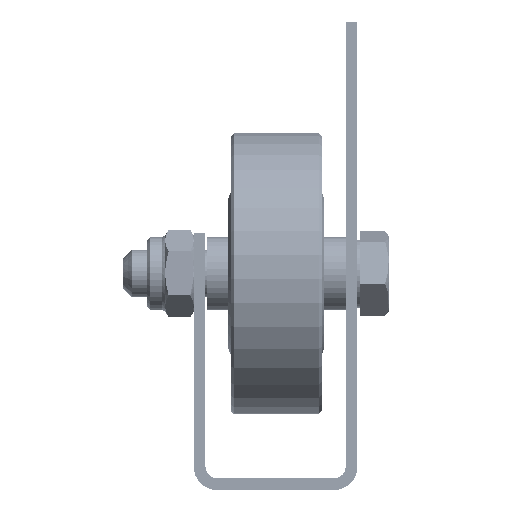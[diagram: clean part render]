
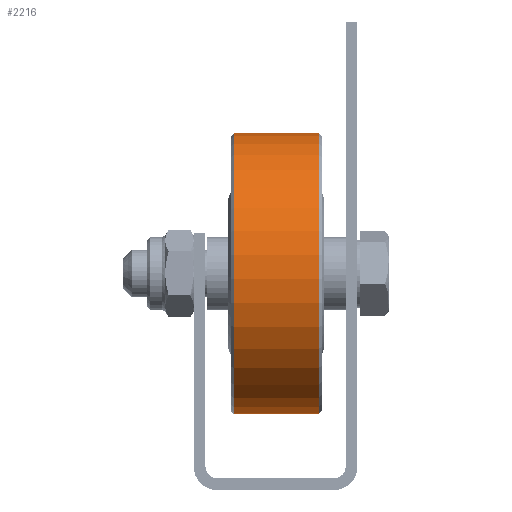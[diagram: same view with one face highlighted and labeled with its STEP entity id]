
A CAD part, front view. The second image highlights one B-rep face of the part: STEP entity #2216.
In plain terms, the highlighted cylindrical face has radius 24 mm (diameter 48 mm), a full revolution.
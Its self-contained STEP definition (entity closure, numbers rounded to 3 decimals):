
#2216 = ADVANCED_FACE( '', ( #4601, #4602 ), #4603, .T. );
#4601 = FACE_OUTER_BOUND( '', #7691, .T. );
#4602 = FACE_OUTER_BOUND( '', #7692, .T. );
#4603 = CYLINDRICAL_SURFACE( '', #7693, 24. );
#7691 = EDGE_LOOP( '', ( #11304 ) );
#7692 = EDGE_LOOP( '', ( #11305 ) );
#7693 = AXIS2_PLACEMENT_3D( '', #11306, #11307, #11308 );
#11304 = ORIENTED_EDGE( '', *, *, #14974, .T. );
#11305 = ORIENTED_EDGE( '', *, *, #14052, .T. );
#11306 = CARTESIAN_POINT( '', ( 0., -7.75, 0. ) );
#11307 = DIRECTION( '', ( 0., -1., 0. ) );
#11308 = DIRECTION( '', ( 0., 0., 1. ) );
#14052 = EDGE_CURVE( '', #15728, #15728, #15729, .T. );
#14974 = EDGE_CURVE( '', #17337, #17337, #17338, .F. );
#15728 = VERTEX_POINT( '', #18411 );
#15729 = CIRCLE( '', #18412, 24. );
#17337 = VERTEX_POINT( '', #20290 );
#17338 = CIRCLE( '', #20291, 24. );
#18411 = CARTESIAN_POINT( '', ( 0., -7.25, 24. ) );
#18412 = AXIS2_PLACEMENT_3D( '', #21533, #21534, #21535 );
#20290 = CARTESIAN_POINT( '', ( 0., 7.25, 24. ) );
#20291 = AXIS2_PLACEMENT_3D( '', #23462, #23463, #23464 );
#21533 = CARTESIAN_POINT( '', ( 0., -7.25, 0. ) );
#21534 = DIRECTION( '', ( 0., 1., 0. ) );
#21535 = DIRECTION( '', ( 0., 0., 1. ) );
#23462 = CARTESIAN_POINT( '', ( 0., 7.25, 0. ) );
#23463 = DIRECTION( '', ( 0., 1., 0. ) );
#23464 = DIRECTION( '', ( 0., 0., 1. ) );
